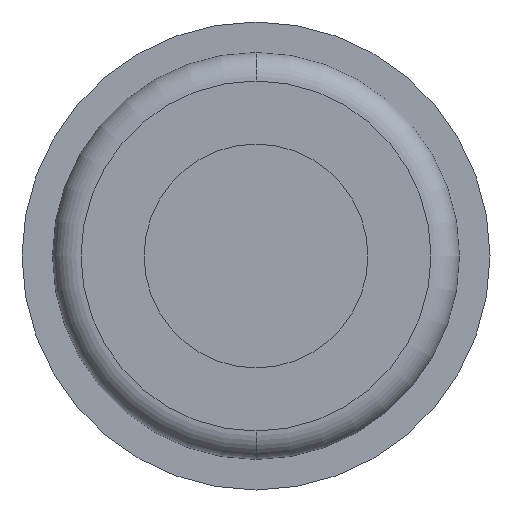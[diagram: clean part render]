
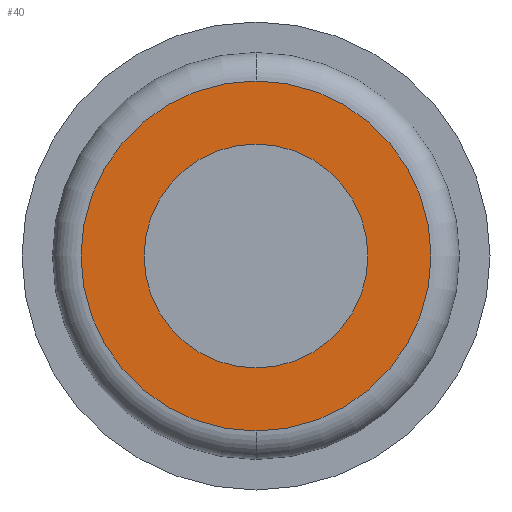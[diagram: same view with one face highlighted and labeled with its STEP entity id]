
A CAD part, front view. The second image highlights one B-rep face of the part: STEP entity #40.
In plain terms, the highlighted planar face has unit normal (0, -1, 0).
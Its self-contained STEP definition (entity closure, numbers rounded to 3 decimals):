
#40 = ADVANCED_FACE ( 'NONE', ( #405, #406 ), #407, .T. ) ;
#48 = EDGE_LOOP ( 'NONE', ( #720, #451 ) ) ;
#54 = EDGE_CURVE ( 'NONE', #234, #450, #454, .T. ) ;
#74 = ORIENTED_EDGE ( 'NONE', *, *, #648, .T. ) ;
#89 = ORIENTED_EDGE ( 'NONE', *, *, #54, .T. ) ;
#133 = EDGE_CURVE ( 'NONE', #667, #674, #365, .T. ) ;
#188 = CARTESIAN_POINT ( 'NONE',  ( 0., 0., -5.5 ) ) ;
#234 = VERTEX_POINT ( 'NONE', #443 ) ;
#344 = CIRCLE ( 'NONE', #345, 5.5 ) ;
#345 = AXIS2_PLACEMENT_3D ( 'NONE', #346, #347, #348 ) ;
#346 = CARTESIAN_POINT ( 'NONE',  ( 0., 0., 0. ) ) ;
#347 = DIRECTION ( 'NONE',  ( 0., 1., 0. ) ) ;
#348 = DIRECTION ( 'NONE',  ( 0., 0., 1. ) ) ;
#365 = CIRCLE ( 'NONE', #366, 8.6 ) ;
#366 = AXIS2_PLACEMENT_3D ( 'NONE', #367, #368, #369 ) ;
#367 = CARTESIAN_POINT ( 'NONE',  ( 0., 0., 0. ) ) ;
#368 = DIRECTION ( 'NONE',  ( 0., 1., 0. ) ) ;
#369 = DIRECTION ( 'NONE',  ( 0., 0., 1. ) ) ;
#400 = CIRCLE ( 'NONE', #401, 8.6 ) ;
#401 = AXIS2_PLACEMENT_3D ( 'NONE', #402, #403, #404 ) ;
#402 = CARTESIAN_POINT ( 'NONE',  ( 0., 0., 0. ) ) ;
#403 = DIRECTION ( 'NONE',  ( 0., 1., 0. ) ) ;
#404 = DIRECTION ( 'NONE',  ( 0., 0., 1. ) ) ;
#405 = FACE_BOUND ( 'NONE', #729, .T. ) ;
#406 = FACE_OUTER_BOUND ( 'NONE', #48, .T. ) ;
#407 = PLANE ( 'NONE',  #408 ) ;
#408 = AXIS2_PLACEMENT_3D ( 'NONE', #409, #410, #411 ) ;
#409 = CARTESIAN_POINT ( 'NONE',  ( -8.6, 0., 0. ) ) ;
#410 = DIRECTION ( 'NONE',  ( 0., -1., 0. ) ) ;
#411 = DIRECTION ( 'NONE',  ( 0., 0., -1. ) ) ;
#443 = CARTESIAN_POINT ( 'NONE',  ( 0., 0., 5.5 ) ) ;
#450 = VERTEX_POINT ( 'NONE', #188 ) ;
#451 = ORIENTED_EDGE ( 'NONE', *, *, #133, .F. ) ;
#454 = CIRCLE ( 'NONE', #455, 5.5 ) ;
#455 = AXIS2_PLACEMENT_3D ( 'NONE', #456, #457, #458 ) ;
#456 = CARTESIAN_POINT ( 'NONE',  ( 0., 0., 0. ) ) ;
#457 = DIRECTION ( 'NONE',  ( 0., 1., 0. ) ) ;
#458 = DIRECTION ( 'NONE',  ( 0., 0., 1. ) ) ;
#472 = CARTESIAN_POINT ( 'NONE',  ( 0., 0., -8.6 ) ) ;
#499 = CARTESIAN_POINT ( 'NONE',  ( 0., 0., 8.6 ) ) ;
#648 = EDGE_CURVE ( 'NONE', #450, #234, #344, .T. ) ;
#657 = EDGE_CURVE ( 'NONE', #674, #667, #400, .T. ) ;
#667 = VERTEX_POINT ( 'NONE', #472 ) ;
#674 = VERTEX_POINT ( 'NONE', #499 ) ;
#720 = ORIENTED_EDGE ( 'NONE', *, *, #657, .F. ) ;
#729 = EDGE_LOOP ( 'NONE', ( #89, #74 ) ) ;
